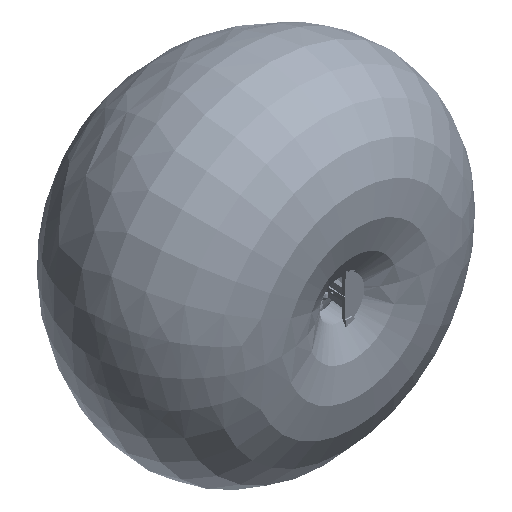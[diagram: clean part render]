
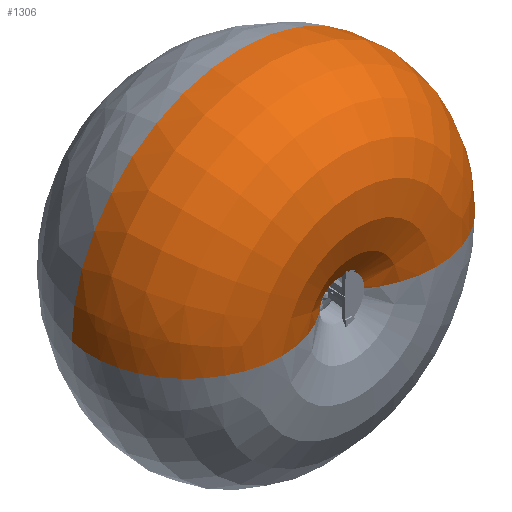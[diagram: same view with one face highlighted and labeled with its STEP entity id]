
A CAD part, isometric view. The second image highlights one B-rep face of the part: STEP entity #1306.
In plain terms, the highlighted free-form (B-spline) face has degree [8, 8] with [9, 9] control points.
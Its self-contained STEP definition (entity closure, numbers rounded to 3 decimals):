
#521=CARTESIAN_POINT(' ',(-1418.811,1029.018,0.));
#526=DIRECTION(' ',(0.,0.,-1.));
#531=DIRECTION(' ',(0.613,-0.79,0.));
#536=AXIS2_PLACEMENT_3D(' ',#521,#526,#531);
#541=CIRCLE('',#536,1251.719);
#546=CARTESIAN_POINT(' ',(-651.85,39.79,0.));
#547=VERTEX_POINT(' ',#546);
#551=CARTESIAN_POINT(' ',(-2633.348,1331.836,0.));
#552=VERTEX_POINT(' ',#551);
#556=EDGE_CURVE(' ',#547,#552,#541,.T.);
#591=CARTESIAN_POINT(' ',(1833.348,1331.836,0.));
#592=VERTEX_POINT(' ',#591);
#606=CARTESIAN_POINT(' ',(618.811,1029.018,0.));
#611=DIRECTION(' ',(0.,0.,1.));
#616=DIRECTION(' ',(-0.613,-0.79,0.));
#621=AXIS2_PLACEMENT_3D(' ',#606,#611,#616);
#626=CIRCLE('',#621,1251.719);
#631=CARTESIAN_POINT(' ',(-148.15,39.79,0.));
#632=VERTEX_POINT(' ',#631);
#636=EDGE_CURVE(' ',#632,#592,#626,.T.);
#806=CARTESIAN_POINT(' ',(-148.15,39.79,0.));
#811=CARTESIAN_POINT(' ',(-148.15,39.79,98.901));
#816=CARTESIAN_POINT(' ',(-192.548,39.79,197.804));
#821=CARTESIAN_POINT(' ',(-281.26,39.79,273.453));
#826=CARTESIAN_POINT(' ',(-400.,39.79,302.677));
#831=CARTESIAN_POINT(' ',(-518.74,39.79,273.453));
#836=CARTESIAN_POINT(' ',(-607.452,39.79,197.804));
#841=CARTESIAN_POINT(' ',(-651.85,39.79,98.901));
#846=CARTESIAN_POINT(' ',(-651.85,39.79,0.));
#851=CARTESIAN_POINT(' ',(157.849,-197.454,0.));
#856=CARTESIAN_POINT(' ',(157.849,-197.454,219.067));
#861=CARTESIAN_POINT(' ',(59.508,-197.454,438.137));
#866=CARTESIAN_POINT(' ',(-136.99,-197.454,605.7));
#871=CARTESIAN_POINT(' ',(-400.,-197.454,670.431));
#876=CARTESIAN_POINT(' ',(-663.01,-197.454,605.7));
#881=CARTESIAN_POINT(' ',(-859.508,-197.454,438.137));
#886=CARTESIAN_POINT(' ',(-957.849,-197.454,219.067));
#891=CARTESIAN_POINT(' ',(-957.849,-197.454,0.));
#896=CARTESIAN_POINT(' ',(547.724,-326.519,0.));
#901=CARTESIAN_POINT(' ',(547.724,-326.519,372.17));
#906=CARTESIAN_POINT(' ',(380.654,-326.519,744.347));
#911=CARTESIAN_POINT(' ',(46.826,-326.519,1029.018));
#916=CARTESIAN_POINT(' ',(-400.,-326.519,1138.989));
#921=CARTESIAN_POINT(' ',(-846.826,-326.519,1029.018));
#926=CARTESIAN_POINT(' ',(-1180.654,-326.519,744.347));
#931=CARTESIAN_POINT(' ',(-1347.724,-326.519,372.17));
#936=CARTESIAN_POINT(' ',(-1347.724,-326.519,0.));
#941=CARTESIAN_POINT(' ',(976.815,-312.834,0.));
#946=CARTESIAN_POINT(' ',(976.815,-312.834,540.674));
#951=CARTESIAN_POINT(' ',(734.102,-312.834,1081.357));
#956=CARTESIAN_POINT(' ',(249.13,-312.834,1494.915));
#961=CARTESIAN_POINT(' ',(-400.,-312.834,1654.676));
#966=CARTESIAN_POINT(' ',(-1049.13,-312.834,1494.915));
#971=CARTESIAN_POINT(' ',(-1534.102,-312.834,1081.357));
#976=CARTESIAN_POINT(' ',(-1776.815,-312.834,540.674));
#981=CARTESIAN_POINT(' ',(-1776.815,-312.834,0.));
#986=CARTESIAN_POINT(' ',(1383.56,-143.811,0.));
#991=CARTESIAN_POINT(' ',(1383.56,-143.811,700.402));
#996=CARTESIAN_POINT(' ',(1069.144,-143.811,1400.817));
#1001=CARTESIAN_POINT(' ',(440.9,-143.811,1936.55));
#1006=CARTESIAN_POINT(' ',(-400.,-143.811,2143.508));
#1011=CARTESIAN_POINT(' ',(-1240.9,-143.811,1936.55));
#1016=CARTESIAN_POINT(' ',(-1869.144,-143.811,1400.817));
#1021=CARTESIAN_POINT(' ',(-2183.56,-143.811,700.402));
#1026=CARTESIAN_POINT(' ',(-2183.56,-143.811,0.));
#1031=CARTESIAN_POINT(' ',(1702.279,160.209,0.));
#1036=CARTESIAN_POINT(' ',(1702.279,160.209,825.563));
#1041=CARTESIAN_POINT(' ',(1331.677,160.209,1651.14));
#1046=CARTESIAN_POINT(' ',(591.167,160.209,2282.608));
#1051=CARTESIAN_POINT(' ',(-400.,160.209,2526.55));
#1056=CARTESIAN_POINT(' ',(-1391.167,160.209,2282.608));
#1061=CARTESIAN_POINT(' ',(-2131.677,160.209,1651.14));
#1066=CARTESIAN_POINT(' ',(-2502.279,160.209,825.563));
#1071=CARTESIAN_POINT(' ',(-2502.279,160.209,0.));
#1076=CARTESIAN_POINT(' ',(1887.869,547.329,0.));
#1081=CARTESIAN_POINT(' ',(1887.869,547.329,898.444));
#1086=CARTESIAN_POINT(' ',(1484.551,547.329,1796.904));
#1091=CARTESIAN_POINT(' ',(678.668,547.329,2484.118));
#1096=CARTESIAN_POINT(' ',(-400.,547.329,2749.595));
#1101=CARTESIAN_POINT(' ',(-1478.668,547.329,2484.118));
#1106=CARTESIAN_POINT(' ',(-2284.551,547.329,1796.904));
#1111=CARTESIAN_POINT(' ',(-2687.869,547.329,898.444));
#1116=CARTESIAN_POINT(' ',(-2687.869,547.329,0.));
#1121=CARTESIAN_POINT(' ',(1927.019,956.142,0.));
#1126=CARTESIAN_POINT(' ',(1927.019,956.142,913.818));
#1131=CARTESIAN_POINT(' ',(1516.799,956.142,1827.652));
#1136=CARTESIAN_POINT(' ',(697.126,956.142,2526.625));
#1141=CARTESIAN_POINT(' ',(-400.,956.142,2796.646));
#1146=CARTESIAN_POINT(' ',(-1497.126,956.142,2526.625));
#1151=CARTESIAN_POINT(' ',(-2316.799,956.142,1827.652));
#1156=CARTESIAN_POINT(' ',(-2727.019,956.142,913.818));
#1161=CARTESIAN_POINT(' ',(-2727.019,956.142,0.));
#1166=CARTESIAN_POINT(' ',(1833.348,1331.836,0.));
#1171=CARTESIAN_POINT(' ',(1833.348,1331.836,877.034));
#1176=CARTESIAN_POINT(' ',(1439.641,1331.836,1754.083));
#1181=CARTESIAN_POINT(' ',(652.962,1331.836,2424.919));
#1186=CARTESIAN_POINT(' ',(-400.,1331.836,2684.07));
#1191=CARTESIAN_POINT(' ',(-1452.962,1331.836,2424.919));
#1196=CARTESIAN_POINT(' ',(-2239.641,1331.836,1754.083));
#1201=CARTESIAN_POINT(' ',(-2633.348,1331.836,877.034));
#1206=CARTESIAN_POINT(' ',(-2633.348,1331.836,0.));
#1211=B_SPLINE_SURFACE_WITH_KNOTS(' ',8,8,((#806,#811,#816,#821,#826,#831,#836,#841,#846),(#851,#856,#861,#866,#871,#876,#881,#886,#891),(#896,#901,#906,#911,#916,#921,#926,#931,#936),(#941,#946,#951,#956,#961,#966,#971,#976,#981),(#986,#991,#996,#1001,#1006,#1011,#1016,#1021,#1026),(#1031,#1036,#1041,#1046,#1051,#1056,#1061,#1066,#1071),(#1076,#1081,#1086,#1091,#1096,#1101,#1106,#1111,#1116),(#1121,#1126,#1131,#1136,#1141,#1146,#1151,#1156,#1161),(#1166,#1171,#1176,#1181,#1186,#1191,#1196,#1201,#1206)),.UNSPECIFIED.,.F.,.F.,.U.,(9,9),(9,9),(0.,1.),(0.,1.),.UNSPECIFIED.);
#1216=ORIENTED_EDGE(' ',*,*,#556,.F.);
#1221=CARTESIAN_POINT(' ',(-400.,39.79,0.));
#1226=DIRECTION(' ',(0.,-1.,0.));
#1231=DIRECTION(' ',(1.,0.,0.));
#1236=AXIS2_PLACEMENT_3D(' ',#1221,#1226,#1231);
#1241=CIRCLE('',#1236,251.85);
#1246=EDGE_CURVE(' ',#632,#547,#1241,.T.);
#1251=ORIENTED_EDGE(' ',*,*,#1246,.F.);
#1256=ORIENTED_EDGE(' ',*,*,#636,.T.);
#1261=CARTESIAN_POINT(' ',(-400.,1331.836,0.));
#1266=DIRECTION(' ',(0.,-1.,0.));
#1271=DIRECTION(' ',(1.,0.,0.));
#1276=AXIS2_PLACEMENT_3D(' ',#1261,#1266,#1271);
#1281=CIRCLE('',#1276,2233.348);
#1286=EDGE_CURVE(' ',#592,#552,#1281,.T.);
#1291=ORIENTED_EDGE(' ',*,*,#1286,.T.);
#1296=EDGE_LOOP(' ',(#1216,#1251,#1256,#1291));
#1301=FACE_OUTER_BOUND(' ',#1296,.T.);
#1306=ADVANCED_FACE('',(#1301),#1211,.T.);
